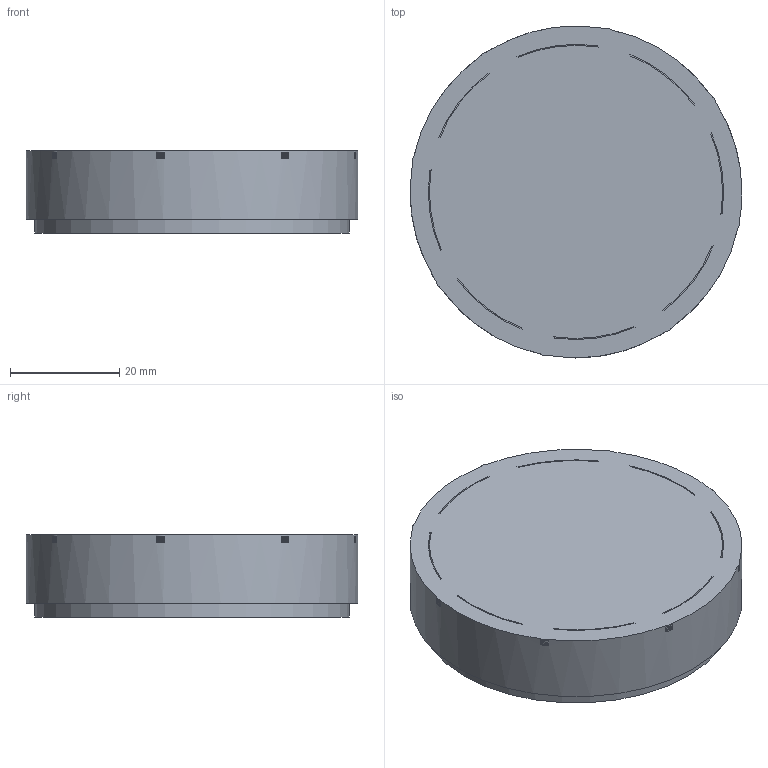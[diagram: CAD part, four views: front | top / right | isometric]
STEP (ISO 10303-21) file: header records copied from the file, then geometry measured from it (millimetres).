
FILE_DESCRIPTION(('Open CASCADE Model'),'2;1');
FILE_NAME('Open CASCADE Shape Model','2026-11-13T05:00:00',('Author'),( 'Open CASCADE'),'Open CASCADE STEP processor 7.9','Open CASCADE 7.9' ,'Unknown');
FILE_SCHEMA(('AUTOMOTIVE_DESIGN { 1 0 10303 214 1 1 1 1 }'));
Length unit declared in the file: millimetre
Products named in the file (1): Open CASCADE STEP translator 7.9 11
Bounding box: 60.7 x 60.7 x 15 mm (x, y, z)
Volume: 14786.8 mm3; surface area: 11414.7 mm2
Topology: 1 solids, 1 shells, 159 faces, 432 edges, 288 vertices
Faces by surface type: plane 135, cylinder 24
Full cylindrical faces by diameter (mm): 50 x1, 51.95 x1, 57.6 x1, 60.7 x1
Entity records: 10595 total; most frequent: CARTESIAN_POINT 2078, DIRECTION 1531, LINE 1056, VECTOR 1056, ORIENTED_EDGE 864, PCURVE 864, DEFINITIONAL_REPRESENTATION 864, EDGE_CURVE 432
